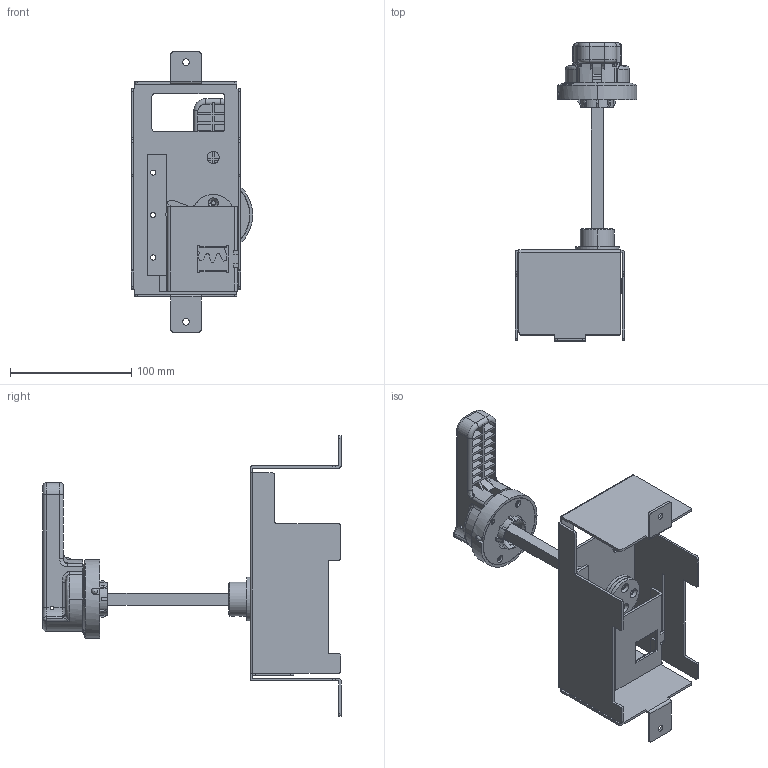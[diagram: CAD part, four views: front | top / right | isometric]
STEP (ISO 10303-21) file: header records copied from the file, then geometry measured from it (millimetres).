
FILE_DESCRIPTION (( 'STEP AP203' ), '1' );
FILE_NAME ('M5-400-Z1A.STEP', '2024-10-21T07:05:22', ( 'A' ), ( '' ), 'SwSTEP 2.0', 'SolidWorks 2018', '' );
FILE_SCHEMA (( 'CONFIG_CONTROL_DESIGN' ));
Products named in the file (1): M5-400-Z1A
Bounding box: 100 x 246 x 231 mm (x, y, z)
Volume: 222735.4 mm3; surface area: 194549.2 mm2
Topology: 14 solids, 14 shells, 1190 faces, 3279 edges, 2129 vertices
Faces by surface type: plane 569, cylinder 352, bspline 186, cone 62, torus 16, sphere 5
Entity records: 50407 total; most frequent: CARTESIAN_POINT 21154, ORIENTED_EDGE 6520, DIRECTION 5381, EDGE_CURVE 3260, VERTEX_POINT 2127, LINE 1857, VECTOR 1857, AXIS2_PLACEMENT_3D 1762
